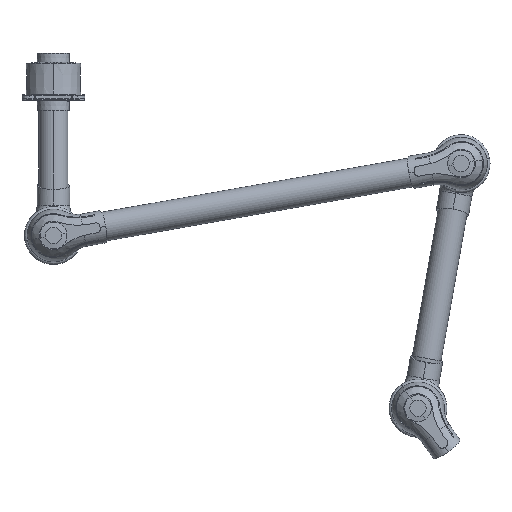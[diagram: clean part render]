
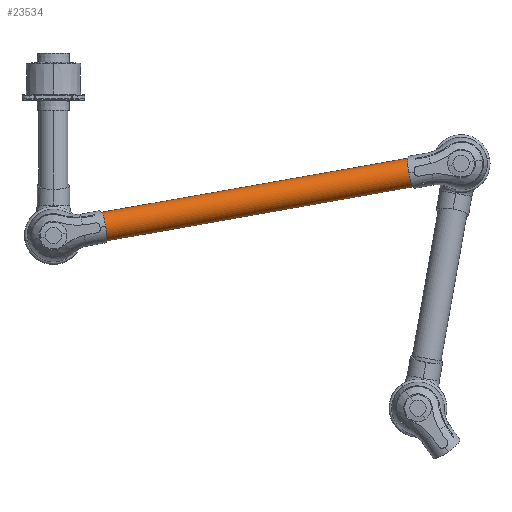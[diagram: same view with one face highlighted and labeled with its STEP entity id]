
A CAD part, top view. The second image highlights one B-rep face of the part: STEP entity #23534.
In plain terms, the highlighted cylindrical face has radius 26.3 mm (diameter 52.6 mm), a partial arc.
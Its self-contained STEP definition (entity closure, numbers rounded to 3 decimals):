
#23447=CARTESIAN_POINT('',(0.,0.,0.));
#23448=DIRECTION('',(1.,0.,0.));
#23449=DIRECTION('',(0.,1.,0.));
#23450=AXIS2_PLACEMENT_3D('',#23447,#23448,#23449);
#23455=DIRECTION('',(-1.,0.,0.));
#23456=VECTOR('',#23455,640.);
#23457=CARTESIAN_POINT('',(0.,26.3,0.));
#23458=LINE('',#23457,#23456);
#23462=DIRECTION('',(-1.,0.,0.));
#23463=VECTOR('',#23462,640.);
#23464=CARTESIAN_POINT('',(0.,-26.3,0.));
#23465=LINE('',#23464,#23463);
#23485=CARTESIAN_POINT('',(-640.,0.,0.));
#23486=DIRECTION('',(1.,0.,0.));
#23487=DIRECTION('',(0.,1.,0.));
#23488=AXIS2_PLACEMENT_3D('',#23485,#23486,#23487);
#23493=CARTESIAN_POINT('',(0.,26.3,0.));
#23494=CARTESIAN_POINT('',(-640.,26.3,0.));
#23495=VERTEX_POINT('',#23493);
#23496=VERTEX_POINT('',#23494);
#23497=CARTESIAN_POINT('',(0.,-26.3,0.));
#23498=CARTESIAN_POINT('',(-640.,-26.3,0.));
#23499=VERTEX_POINT('',#23497);
#23500=VERTEX_POINT('',#23498);
#23520=CARTESIAN_POINT('',(-672.,0.,0.));
#23521=DIRECTION('',(1.,0.,0.));
#23522=DIRECTION('',(0.,-1.,0.));
#23523=AXIS2_PLACEMENT_3D('',#23520,#23521,#23522);
#23524=CYLINDRICAL_SURFACE('',#23523,26.3);
#23526=ORIENTED_EDGE('',*,*,#23525,.F.);
#23527=ORIENTED_EDGE('',*,*,#23506,.T.);
#23529=ORIENTED_EDGE('',*,*,#23528,.T.);
#23531=ORIENTED_EDGE('',*,*,#23530,.F.);
#23532=EDGE_LOOP('',(#23526,#23527,#23529,#23531));
#23533=FACE_OUTER_BOUND('',#23532,.F.);
#23451=CIRCLE('',#23450,26.3);
#23489=CIRCLE('',#23488,26.3);
#23506=EDGE_CURVE('',#23495,#23499,#23451,.T.);
#23525=EDGE_CURVE('',#23495,#23496,#23458,.T.);
#23528=EDGE_CURVE('',#23499,#23500,#23465,.T.);
#23530=EDGE_CURVE('',#23496,#23500,#23489,.T.);
#23534=ADVANCED_FACE('',(#23533),#23524,.T.);
